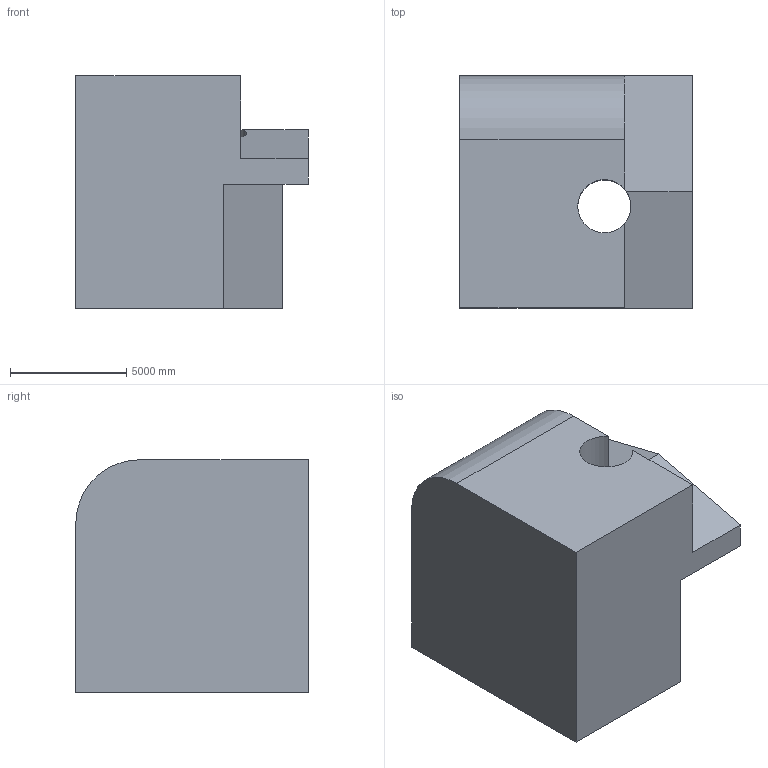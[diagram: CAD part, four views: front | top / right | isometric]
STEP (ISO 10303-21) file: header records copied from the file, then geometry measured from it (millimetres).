
FILE_DESCRIPTION (( 'STEP AP203' ), '1' );
FILE_NAME ('1409.STEP', '2022-08-18T14:18:23', ( 'user' ), ( '' ), 'SwSTEP 2.0', 'SolidWorks 2021', '' );
FILE_SCHEMA (( 'CONFIG_CONTROL_DESIGN' ));
Length unit declared in the file: centimetre
Products named in the file (1): 1409
Bounding box: 10000 x 10000 x 10000 mm (x, y, z)
Volume: 712332282029.7 mm3; surface area: 622901574.6 mm2
Topology: 1 solids, 1 shells, 20 faces, 57 edges, 38 vertices
Faces by surface type: plane 17, cylinder 3
Entity records: 728 total; most frequent: CARTESIAN_POINT 125, ORIENTED_EDGE 114, DIRECTION 102, EDGE_CURVE 57, VECTOR 48, LINE 48, VERTEX_POINT 38, AXIS2_PLACEMENT_3D 27
